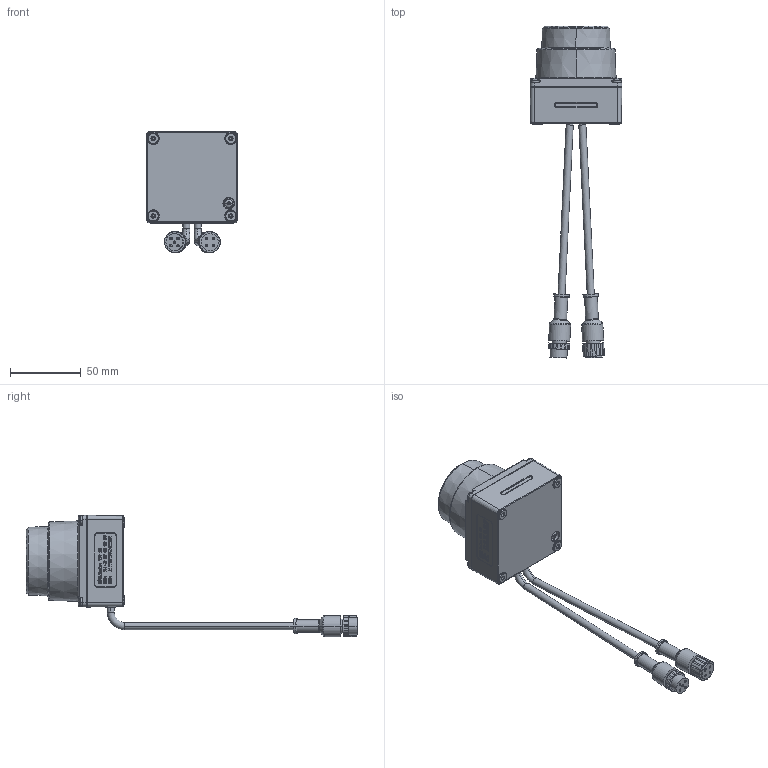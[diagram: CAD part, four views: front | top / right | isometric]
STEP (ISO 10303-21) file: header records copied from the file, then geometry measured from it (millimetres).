
FILE_DESCRIPTION (( 'STEP AP214' ), '1' );
FILE_NAME ('VF1-25 Ö÷»ú.STEP', '2022-05-16T08:23:02', ( '' ), ( '' ), 'SwSTEP 2.0', 'SolidWorks 2021', '' );
FILE_SCHEMA (( 'AUTOMOTIVE_DESIGN' ));
Length unit declared in the file: millimetre
Products named in the file (1): VF1-25 翋儂
Bounding box: 64.99 x 234.99 x 85.99 mm (x, y, z)
Surface area: 33513.2 mm2 (no closed solid volume)
Topology: 0 solids, 130 shells, 625 faces, 3643 edges, 3147 vertices
Faces by surface type: cylinder 234, plane 214, cone 64, torus 62, bspline 31, sphere 20
Entity records: 56383 total; most frequent: CARTESIAN_POINT 23880, ORIENTED_EDGE 4683, DIRECTION 4407, EDGE_CURVE 3637, VERTEX_POINT 3147, LINE 1845, VECTOR 1845, AXIS2_PLACEMENT_3D 1281
